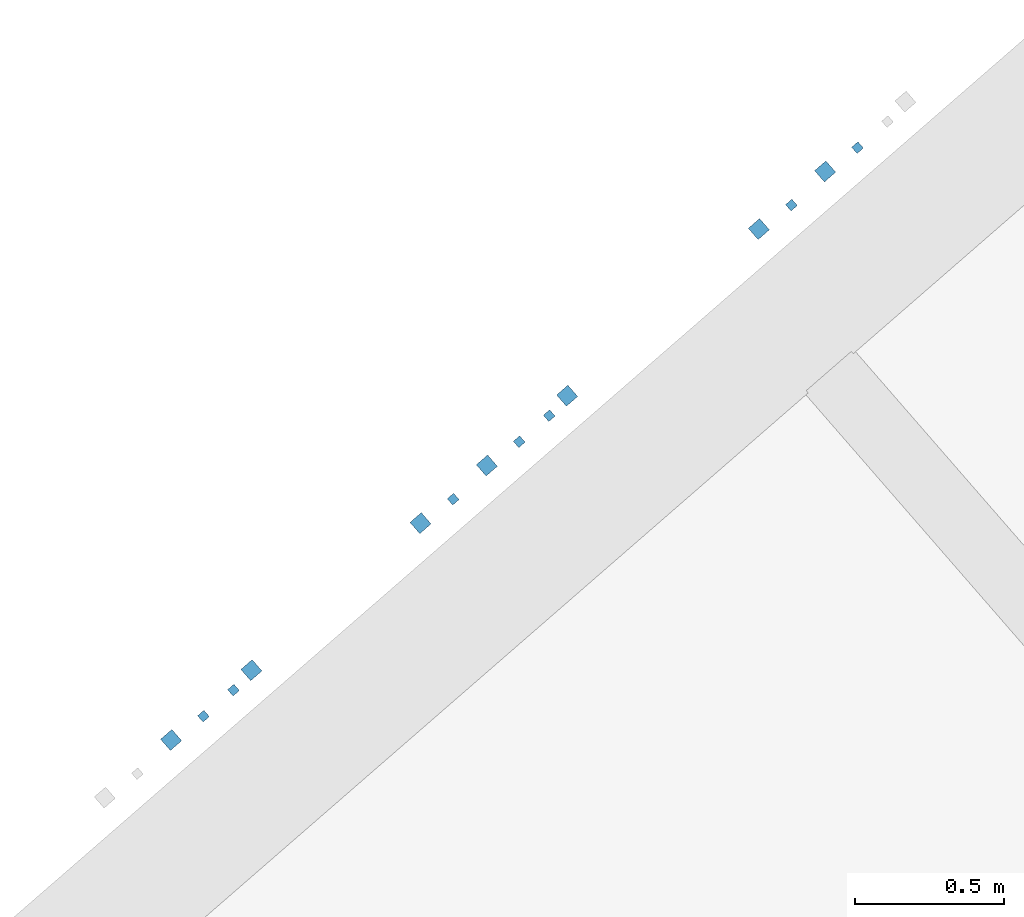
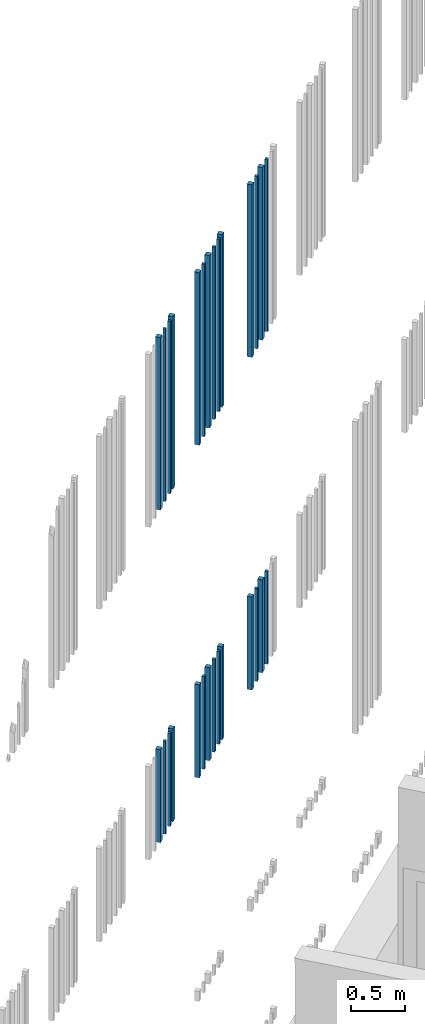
# One storey, part 53 of 124: 28 walls.
"""IFC2X3 building model written with IfcOpenShell, lengths in millimetres."""

import ifcopenshell
import ifcopenshell.guid

model = None  # the IFC model being written
_history = None  # IfcOwnerHistory: only IFC2X3 demands one
_inside = {}  # id of a spatial element -> (the spatial element, [elements in it])
_under = {}  # id of a project, library or spatial element -> (it, [spatial elements below it])
_declared = {}  # id of a project -> (the project, [libraries it declares])
_typed = {}  # id of a type object -> (the type object, [elements of that type])
_made_of = {}  # id of a material, layer set ... -> (it, [elements and type objects made of it])


def new_model(schema):
    """Start an empty IFC model of exactly this schema.

    Asked for "IFC4X3", IfcOpenShell would pick the latest addendum, in which some entities
    have other attributes; the version numbers below select the first issue.
    IFC2X3 requires an IfcOwnerHistory on every rooted entity: one is made here for all.
    """
    global model, _history
    if schema == "IFC4X3":
        model = ifcopenshell.file(schema_version=(4, 3, 0, 0))
    else:
        model = ifcopenshell.file(schema=schema)
    _inside.clear()
    _under.clear()
    _declared.clear()
    _typed.clear()
    _made_of.clear()
    _history = None
    if model.schema == "IFC2X3":
        org = make("IfcOrganization", Name="unknown")
        user = make(
            "IfcPersonAndOrganization",
            ThePerson=make("IfcPerson", FamilyName="unknown"),
            TheOrganization=org,
        )
        app = make(
            "IfcApplication",
            ApplicationDeveloper=org,
            Version="unknown",
            ApplicationFullName="unknown",
            ApplicationIdentifier="unknown",
        )
        _history = make(
            "IfcOwnerHistory",
            OwningUser=user,
            OwningApplication=app,
            ChangeAction="ADDED",
            CreationDate=0,
        )
    return model


def make(cls, **values):
    """One entity of the class cls with the attributes given. An attribute that is None is left unset."""
    return model.create_entity(
        cls, **{name: value for name, value in values.items() if value is not None}
    )


def entity(cls, *values):
    """Any entity or typed value of the class cls, its attributes in the order of the schema. None: left unset."""
    e = model.create_entity(cls)
    for i, value in enumerate(values):
        if value is not None:
            e[i] = value
    return e


def rooted(cls, **values):
    """An entity with a GlobalId (a new one), such as an element, a storey or a relation."""
    return make(cls, GlobalId=ifcopenshell.guid.new(), OwnerHistory=_history, **values)


def si_unit(unit_type, name, prefix=None):
    """IfcSIUnit, for example si_unit("LENGTHUNIT", "METRE", prefix="MILLI")."""
    return make("IfcSIUnit", UnitType=unit_type, Prefix=prefix, Name=name)


def converted_unit(unit_type, name, factor, base, dimensions=None, offset=None):
    """IfcConversionBasedUnit, such as the inch: factor (a typed value) times the base unit."""
    return make(
        "IfcConversionBasedUnit"
        if offset is None
        else "IfcConversionBasedUnitWithOffset",
        ConversionOffset=offset,
        Dimensions=None
        if dimensions is None
        else entity("IfcDimensionalExponents", *dimensions),
        UnitType=unit_type,
        Name=name,
        ConversionFactor=make(
            "IfcMeasureWithUnit", ValueComponent=factor, UnitComponent=base
        ),
    )


def derived_unit(unit_type, elements):
    """IfcDerivedUnit: a product of units, each with its exponent."""
    return make(
        "IfcDerivedUnit",
        Elements=[
            make("IfcDerivedUnitElement", Unit=unit, Exponent=power)
            for unit, power in elements
        ],
        UnitType=unit_type,
    )


def money_unit(currency):
    """IfcMonetaryUnit."""
    return make("IfcMonetaryUnit", Currency=currency)


def assignment(units):
    """IfcUnitAssignment: the units of a project."""
    return None if units is None else make("IfcUnitAssignment", Units=units)


def point(xyz):
    """IfcCartesianPoint."""
    return None if xyz is None else make("IfcCartesianPoint", Coordinates=xyz)


def direction(xyz):
    """IfcDirection."""
    return None if xyz is None else make("IfcDirection", DirectionRatios=xyz)


def frame(location, z_axis=None, x_axis=None):
    """IfcAxis2Placement3D, a coordinate frame: its origin and axes. An axis left out is left unset."""
    return make(
        "IfcAxis2Placement3D",
        Location=point(location),
        Axis=direction(z_axis),
        RefDirection=direction(x_axis),
    )


def origin_with_axes():
    """The frame at (0, 0, 0) with the z axis (0, 0, 1) and the x axis (1, 0, 0) written out."""
    return frame((0.0, 0.0, 0.0), z_axis=(0.0, 0.0, 1.0), x_axis=(1.0, 0.0, 0.0))


def place(relative_to, where):
    """IfcLocalPlacement: puts the frame where relative to a parent placement (None: the world)."""
    return make(
        "IfcLocalPlacement", PlacementRelTo=relative_to, RelativePlacement=where
    )


def context(
    kind, dimensions, precision=None, world=None, true_north=None, identifier=None
):
    """IfcGeometricRepresentationContext, for example the 3D "Model" context."""
    return make(
        "IfcGeometricRepresentationContext",
        ContextIdentifier=identifier,
        ContextType=kind,
        CoordinateSpaceDimension=dimensions,
        Precision=precision,
        WorldCoordinateSystem=world,
        TrueNorth=true_north,
    )


def subcontext(parent, identifier, kind, view, scale=None):
    """IfcGeometricRepresentationSubContext, for example "Body" below "Model"."""
    return make(
        "IfcGeometricRepresentationSubContext",
        ContextIdentifier=identifier,
        ContextType=kind,
        ParentContext=parent,
        TargetScale=scale,
        TargetView=view,
    )


def project(units=None, contexts=None):
    """IfcProject with its units and contexts."""
    return rooted(
        "IfcProject",
        Name="project",
        RepresentationContexts=contexts,
        UnitsInContext=assignment(units),
    )


def spatial(cls, under=None, at=None, **own):
    """A site, building, storey or space (cls), placed at a placement, below another one or the project."""
    s = rooted(cls, ObjectPlacement=at, **own)
    if under is not None:
        _under.setdefault(under.id(), (under, []))[1].append(s)
    return s


def faces_of(points, faces, orient=None, outer=None):
    """IfcFace entities. A face is a list of loops; a loop is a list of indices into points, from 0.

    orient and outer hold one flag for each loop. By default every Orientation is true, the
    first loop of a face is its IfcFaceOuterBound and the others are IfcFaceBound.
    """
    made = []
    for i, loops in enumerate(faces):
        bounds = []
        for j, loop in enumerate(loops):
            is_outer = j == 0 if outer is None else outer[i][j]
            bounds.append(
                make(
                    "IfcFaceOuterBound" if is_outer else "IfcFaceBound",
                    Bound=make("IfcPolyLoop", Polygon=[points[k] for k in loop]),
                    Orientation=True if orient is None else orient[i][j],
                )
            )
        made.append(make("IfcFace", Bounds=bounds))
    return made


def faceted_brep(points, faces, orient=None, outer=None, voids=None):
    """IfcFacetedBrep: a solid bounded by flat faces; with voids (closed shells), ...WithVoids."""
    shared = [point(p) for p in points]
    hull = make("IfcClosedShell", CfsFaces=faces_of(shared, faces, orient, outer))
    if voids is None:
        return make("IfcFacetedBrep", Outer=hull)
    return make(
        "IfcFacetedBrepWithVoids",
        Outer=hull,
        Voids=[
            make(cls, CfsFaces=faces_of(shared, fs, o, b)) for cls, fs, o, b in voids
        ],
    )


def shape(context_of_items, identifier, shape_type, items):
    """IfcShapeRepresentation: the items that make up one representation, for example the "Body"."""
    return make(
        "IfcShapeRepresentation",
        ContextOfItems=context_of_items,
        RepresentationIdentifier=identifier,
        RepresentationType=shape_type,
        Items=items,
    )


def material(Name=None, Category=None):
    """IfcMaterial."""
    return make("IfcMaterial", Name=Name, Category=Category)


def made_of(thing, what):
    """Note that an element or type object is made of a material, layer set ...; save() writes the relation."""
    if what is not None:
        _made_of.setdefault(what.id(), (what, []))[1].append(thing)
    return thing


def type_object(cls, material=None, **own):
    """A type object (cls), such as IfcWallType, which elements share."""
    return made_of(rooted(cls, **own), material)


def element(
    cls,
    number,
    at=None,
    inside=None,
    cuts=None,
    type_object=None,
    material=None,
    context=None,
    identifier="Body",
    shape_type=None,
    held_by="IfcProductDefinitionShape",
    body=None,
    shapes=None,
    **own,
):
    """One element of the class cls, such as IfcWall. Its Tag is "e" and its number.

    at: its placement. inside: the storey or other place that contains it. cuts: it is an
    opening in that element (IfcRelVoidsElement). A single representation is given by context,
    identifier, shape_type and body (its items); several are given by shapes. held_by: the class
    of the entity that holds the representations. save() writes the other relations.
    """
    e = rooted(cls, Tag="e%d" % number, ObjectPlacement=at, **own)
    if body is not None:
        shapes = [shape(context, identifier, shape_type, body)]
    if shapes is not None:
        e.Representation = make(held_by, Representations=shapes)
    if inside is not None:
        _inside.setdefault(inside.id(), (inside, []))[1].append(e)
    if cuts is not None:
        rooted(
            "IfcRelVoidsElement", RelatingBuildingElement=cuts, RelatedOpeningElement=e
        )
    if type_object is not None:
        _typed.setdefault(type_object.id(), (type_object, []))[1].append(e)
    return made_of(e, material)


def aggregate(whole, parts):
    """IfcRelAggregates: a whole, such as a stair, and the parts it consists of."""
    return rooted("IfcRelAggregates", RelatingObject=whole, RelatedObjects=parts)


def save(model, path):
    """Write the relations noted so far, then the file.

    IfcRelAggregates (storeys below a building ...), IfcRelContainedInSpatialStructure (elements
    in a storey), IfcRelDefinesByType, IfcRelAssociatesMaterial and IfcRelDeclares: one each for
    every whole, place, type object, material and project.
    """
    for whole, parts in _under.values():
        aggregate(whole, parts)
    for where, things in _inside.values():
        rooted(
            "IfcRelContainedInSpatialStructure",
            RelatedElements=things,
            RelatingStructure=where,
        )
    for kind, things in _typed.values():
        rooted("IfcRelDefinesByType", RelatedObjects=things, RelatingType=kind)
    for what, things in _made_of.values():
        rooted("IfcRelAssociatesMaterial", RelatedObjects=things, RelatingMaterial=what)
    for by, libraries in _declared.values():
        rooted("IfcRelDeclares", RelatingContext=by, RelatedDefinitions=libraries)
    model.write(path)


model = new_model("IFC2X3")

# Units and contexts
model_context = context("Model", 3, precision=1e-05, world=origin_with_axes(), true_north=direction((0.0, 1.0)))
body_context = subcontext(model_context, "Body", "Model", "MODEL_VIEW")
ifc_project = project(units=[si_unit("LENGTHUNIT", "METRE", prefix="MILLI"), si_unit("AREAUNIT", "SQUARE_METRE"), si_unit("VOLUMEUNIT", "CUBIC_METRE"), converted_unit("PLANEANGLEUNIT", "DEGREE", entity("IfcPlaneAngleMeasure", 0.0174532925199), si_unit("PLANEANGLEUNIT", "RADIAN"), dimensions=[0, 0, 0, 0, 0, 0, 0]), si_unit("SOLIDANGLEUNIT", "STERADIAN"), money_unit("EUR"), converted_unit("TIMEUNIT", "Year", entity("IfcTimeMeasure", 31556926.0), si_unit("TIMEUNIT", "SECOND"), dimensions=[0, 0, 1, 0, 0, 0, 0]), si_unit("MASSUNIT", "GRAM", prefix="KILO"), si_unit("THERMODYNAMICTEMPERATUREUNIT", "DEGREE_CELSIUS"), si_unit("LUMINOUSINTENSITYUNIT", "LUMEN"), si_unit("ENERGYUNIT", "JOULE", prefix="MEGA"), derived_unit("THERMALCONDUCTANCEUNIT", [(si_unit("POWERUNIT", "WATT"), 1), (si_unit("LENGTHUNIT", "METRE"), -1), (si_unit("THERMODYNAMICTEMPERATUREUNIT", "KELVIN"), -1)]), derived_unit("SPECIFICHEATCAPACITYUNIT", [(si_unit("ENERGYUNIT", "JOULE"), 1), (si_unit("MASSUNIT", "GRAM", prefix="KILO"), -1), (si_unit("THERMODYNAMICTEMPERATUREUNIT", "KELVIN"), -1)]), derived_unit("MASSDENSITYUNIT", [(si_unit("MASSUNIT", "GRAM", prefix="KILO"), 1), (si_unit("VOLUMEUNIT", "CUBIC_METRE"), -1)])], contexts=[model_context])

# Site, building, storey
site_placement = place(None, origin_with_axes())
site = spatial("IfcSite", under=ifc_project, at=site_placement, Name="Site", CompositionType="ELEMENT")
building_placement = place(site_placement, origin_with_axes())
building = spatial("IfcBuilding", under=site, at=building_placement, Name="Building", CompositionType="ELEMENT")
storey_placement = place(building_placement, frame((0.0, 0.0, -1615.0), z_axis=(0.0, 0.0, 1.0), x_axis=(1.0, 0.0, 0.0)))
storey = spatial("IfcBuildingStorey", under=building, at=storey_placement, Name="0  korrus", CompositionType="ELEMENT", Elevation=-1615.0)

# Walls
ifc_material = material(Name="Site specified")
wall_type = type_object("IfcWallType", Name="Puitfassaadi ribistik", PredefinedType="NOTDEFINED")
for number, where, z_axis, x_axis, name in (
    (1, (148220.96178, 98868.3569875, 5771.0), (0.0, 0.0, 1.0), (0.754709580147, 0.656059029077, 0.0), "Site specified"),
    (2, (148120.585406, 98781.1011372, 5771.0), (0.0, 0.0, 1.0), (0.754709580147, 0.656059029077, 0.0), "Site specified"),
):
    element("IfcWall", number, at=place(storey_placement, frame(where, z_axis=z_axis, x_axis=x_axis)), inside=storey, type_object=wall_type, material=ifc_material, Name=name, context=body_context, shape_type="Brep", body=[
        faceted_brep([(14.0, 14.0, 1050.0), (14.0, 14.0, 0.0), (-14.0, 14.0, 0.0), (-14.0, 14.0, 1050.0), (14.0, -14.0, 1050.0), (14.0, -14.0, 0.0), (-14.0, -14.0, 0.0), (-14.0, -14.0, 1050.0)], [[[0, 1, 2, 3]], [[4, 5, 1, 0]], [[2, 1, 5, 6]], [[3, 2, 6, 7]], [[4, 0, 3, 7]], [[7, 6, 5, 4]]]),
    ])
for number, where, z_axis, x_axis, name in (
    (3, (148280.916676, 98935.0501264, 5771.0), (0.0, 0.0, 1.0), (0.754709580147, 0.656059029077, 0.0), "Site specified"),
    (4, (148012.235814, 98701.4894163, 5771.0), (0.0, 0.0, 1.0), (0.754709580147, 0.656059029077, 0.0), "Site specified"),
):
    element("IfcWall", number, at=place(storey_placement, frame(where, z_axis=z_axis, x_axis=x_axis)), inside=storey, type_object=wall_type, material=ifc_material, Name=name, context=body_context, shape_type="Brep", body=[
        faceted_brep([(25.0, 25.0, 1050.0), (25.0, 25.0, 0.0), (-25.0, 25.0, 0.0), (-25.0, 25.0, 1050.0), (25.0, -25.0, 1050.0), (25.0, -25.0, 0.0), (-25.0, -25.0, 0.0), (-25.0, -25.0, 1050.0)], [[[0, 1, 2, 3]], [[4, 5, 1, 0]], [[2, 1, 5, 6]], [[3, 2, 6, 7]], [[4, 0, 3, 7]], [[7, 6, 5, 4]]]),
    ])
for number, where, z_axis, x_axis, name in (
    (5, (148220.96178, 98868.3569875, 9530.0), (0.0, 0.0, 1.0), (0.754709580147, 0.656059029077, 0.0), "Site specified"),
    (6, (148120.585406, 98781.1011372, 9530.0), (0.0, 0.0, 1.0), (0.754709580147, 0.656059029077, 0.0), "Site specified"),
):
    element("IfcWall", number, at=place(storey_placement, frame(where, z_axis=z_axis, x_axis=x_axis)), inside=storey, type_object=wall_type, material=ifc_material, Name=name, context=body_context, shape_type="Brep", body=[
        faceted_brep([(14.0, 14.0, 1950.0), (14.0, 14.0, 0.0), (-14.0, 14.0, 0.0), (-14.0, 14.0, 1950.0), (14.0, -14.0, 1950.0), (14.0, -14.0, 0.0), (-14.0, -14.0, 0.0), (-14.0, -14.0, 1950.0)], [[[0, 1, 2, 3]], [[4, 5, 1, 0]], [[2, 1, 5, 6]], [[3, 2, 6, 7]], [[4, 0, 3, 7]], [[7, 6, 5, 4]]]),
    ])
for number, where, z_axis, x_axis, name in (
    (7, (148280.916676, 98935.0501264, 9530.0), (0.0, 0.0, 1.0), (0.754709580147, 0.656059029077, 0.0), "Site specified"),
    (8, (148012.235814, 98701.4894163, 9530.0), (0.0, 0.0, 1.0), (0.754709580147, 0.656059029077, 0.0), "Site specified"),
):
    element("IfcWall", number, at=place(storey_placement, frame(where, z_axis=z_axis, x_axis=x_axis)), inside=storey, type_object=wall_type, material=ifc_material, Name=name, context=body_context, shape_type="Brep", body=[
        faceted_brep([(25.0, 25.0, 1950.0), (25.0, 25.0, 0.0), (-25.0, 25.0, 0.0), (-25.0, 25.0, 1950.0), (25.0, -25.0, 1950.0), (25.0, -25.0, 0.0), (-25.0, -25.0, 0.0), (-25.0, -25.0, 1950.0)], [[[0, 1, 2, 3]], [[4, 5, 1, 0]], [[2, 1, 5, 6]], [[3, 2, 6, 7]], [[4, 0, 3, 7]], [[7, 6, 5, 4]]]),
    ])
wall_1_placement = place(storey_placement, frame((149177.178922, 99699.5838678, 5771.0), z_axis=(0.0, 0.0, 1.0), x_axis=(0.754709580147, 0.656059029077, 0.0)))
element("IfcWall", 9, at=wall_1_placement, inside=storey, type_object=wall_type, material=ifc_material, Name="Site specified", context=body_context, shape_type="Brep", body=[
    faceted_brep([(14.0, 14.0, 1050.0), (14.0, 14.0, 0.0), (-14.0, 14.0, 0.0), (-14.0, 14.0, 1050.0), (14.0, -14.0, 1050.0), (14.0, -14.0, 0.0), (-14.0, -14.0, 0.0), (-14.0, -14.0, 1050.0)], [[[0, 1, 2, 3]], [[4, 5, 1, 0]], [[2, 1, 5, 6]], [[3, 2, 6, 7]], [[4, 0, 3, 7]], [[7, 6, 5, 4]]]),
])
for number, where, z_axis, x_axis, name in (
    (10, (149337.510192, 99853.5328571, 5771.0), (0.0, 0.0, 1.0), (0.754709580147, 0.656059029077, 0.0), "Site specified"),
    (11, (149068.82933, 99619.9721469, 5771.0), (0.0, 0.0, 1.0), (0.754709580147, 0.656059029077, 0.0), "Site specified"),
):
    element("IfcWall", number, at=place(storey_placement, frame(where, z_axis=z_axis, x_axis=x_axis)), inside=storey, type_object=wall_type, material=ifc_material, Name=name, context=body_context, shape_type="Brep", body=[
        faceted_brep([(25.0, 25.0, 1050.0), (25.0, 25.0, 0.0), (-25.0, 25.0, 0.0), (-25.0, 25.0, 1050.0), (25.0, -25.0, 1050.0), (25.0, -25.0, 0.0), (-25.0, -25.0, 0.0), (-25.0, -25.0, 1050.0)], [[[0, 1, 2, 3]], [[4, 5, 1, 0]], [[2, 1, 5, 6]], [[3, 2, 6, 7]], [[4, 0, 3, 7]], [[7, 6, 5, 4]]]),
    ])
for number, where, z_axis, x_axis, name in (
    (12, (148956.049037, 99507.3585913, 9530.0), (0.0, 0.0, 1.0), (0.754709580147, 0.656059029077, 0.0), "Site specified"),
    (13, (149277.555296, 99786.8397181, 9530.0), (0.0, 0.0, 1.0), (0.754709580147, 0.656059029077, 0.0), "Site specified"),
    (14, (149177.178922, 99699.5838678, 9530.0), (0.0, 0.0, 1.0), (0.754709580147, 0.656059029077, 0.0), "Site specified"),
):
    element("IfcWall", number, at=place(storey_placement, frame(where, z_axis=z_axis, x_axis=x_axis)), inside=storey, type_object=wall_type, material=ifc_material, Name=name, context=body_context, shape_type="Brep", body=[
        faceted_brep([(14.0, 14.0, 1950.0), (14.0, 14.0, 0.0), (-14.0, 14.0, 0.0), (-14.0, 14.0, 1950.0), (14.0, -14.0, 1950.0), (14.0, -14.0, 0.0), (-14.0, -14.0, 0.0), (-14.0, -14.0, 1950.0)], [[[0, 1, 2, 3]], [[4, 5, 1, 0]], [[2, 1, 5, 6]], [[3, 2, 6, 7]], [[4, 0, 3, 7]], [[7, 6, 5, 4]]]),
    ])
for number, where, z_axis, x_axis, name in (
    (15, (149337.510192, 99853.5328571, 9530.0), (0.0, 0.0, 1.0), (0.754709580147, 0.656059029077, 0.0), "Site specified"),
    (16, (149068.82933, 99619.9721469, 9530.0), (0.0, 0.0, 1.0), (0.754709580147, 0.656059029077, 0.0), "Site specified"),
):
    element("IfcWall", number, at=place(storey_placement, frame(where, z_axis=z_axis, x_axis=x_axis)), inside=storey, type_object=wall_type, material=ifc_material, Name=name, context=body_context, shape_type="Brep", body=[
        faceted_brep([(25.0, 25.0, 1950.0), (25.0, 25.0, 0.0), (-25.0, 25.0, 0.0), (-25.0, 25.0, 1950.0), (25.0, -25.0, 1950.0), (25.0, -25.0, 0.0), (-25.0, -25.0, 0.0), (-25.0, -25.0, 1950.0)], [[[0, 1, 2, 3]], [[4, 5, 1, 0]], [[2, 1, 5, 6]], [[3, 2, 6, 7]], [[4, 0, 3, 7]], [[7, 6, 5, 4]]]),
    ])
for number, where, z_axis, x_axis, name in (
    (17, (149277.555296, 99786.8397181, 5771.0), (0.0, 0.0, 1.0), (0.754709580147, 0.656059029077, 0.0), "Site specified"),
    (18, (148956.049037, 99507.3585913, 5771.0), (0.0, 0.0, 1.0), (0.754709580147, 0.656059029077, 0.0), "Site specified"),
):
    element("IfcWall", number, at=place(storey_placement, frame(where, z_axis=z_axis, x_axis=x_axis)), inside=storey, type_object=wall_type, material=ifc_material, Name=name, context=body_context, shape_type="Brep", body=[
        faceted_brep([(14.0, 14.0, 1050.0), (14.0, 14.0, 0.0), (-14.0, 14.0, 0.0), (-14.0, 14.0, 1050.0), (14.0, -14.0, 1050.0), (14.0, -14.0, 0.0), (-14.0, -14.0, 0.0), (-14.0, -14.0, 1050.0)], [[[0, 1, 2, 3]], [[4, 5, 1, 0]], [[2, 1, 5, 6]], [[3, 2, 6, 7]], [[4, 0, 3, 7]], [[7, 6, 5, 4]]]),
    ])
wall_2_placement = place(storey_placement, frame((148846.944715, 99427.0907938, 5771.0), z_axis=(0.0, 0.0, 1.0), x_axis=(0.754709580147, 0.656059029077, 0.0)))
element("IfcWall", 19, at=wall_2_placement, inside=storey, type_object=wall_type, material=ifc_material, Name="Site specified", context=body_context, shape_type="Brep", body=[
    faceted_brep([(25.0, 25.0, 1050.0), (25.0, 25.0, 0.0), (-25.0, 25.0, 0.0), (-25.0, 25.0, 1050.0), (25.0, -25.0, 1050.0), (25.0, -25.0, 0.0), (-25.0, -25.0, 0.0), (-25.0, -25.0, 1050.0)], [[[0, 1, 2, 3]], [[4, 5, 1, 0]], [[2, 1, 5, 6]], [[3, 2, 6, 7]], [[4, 0, 3, 7]], [[7, 6, 5, 4]]]),
])
for number, where, z_axis, x_axis, name in (
    (20, (148846.944715, 99427.0907938, 9530.0), (0.0, 0.0, 1.0), (0.754709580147, 0.656059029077, 0.0), "Site specified"),
    (21, (150200.8937, 100604.060691, 9530.0), (0.0, 0.0, 1.0), (0.754709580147, 0.656059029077, 0.0), "Site specified"),
):
    element("IfcWall", number, at=place(storey_placement, frame(where, z_axis=z_axis, x_axis=x_axis)), inside=storey, type_object=wall_type, material=ifc_material, Name=name, context=body_context, shape_type="Brep", body=[
        faceted_brep([(25.0, 25.0, 1950.0), (25.0, 25.0, 0.0), (-25.0, 25.0, 0.0), (-25.0, 25.0, 1950.0), (25.0, -25.0, 1950.0), (25.0, -25.0, 0.0), (-25.0, -25.0, 0.0), (-25.0, -25.0, 1950.0)], [[[0, 1, 2, 3]], [[4, 5, 1, 0]], [[2, 1, 5, 6]], [[3, 2, 6, 7]], [[4, 0, 3, 7]], [[7, 6, 5, 4]]]),
    ])
for number, where, z_axis, x_axis, name in (
    (22, (150309.243292, 100683.672412, 9530.0), (0.0, 0.0, 1.0), (0.754709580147, 0.656059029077, 0.0), "Site specified"),
    (23, (150088.113407, 100491.447135, 9530.0), (0.0, 0.0, 1.0), (0.754709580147, 0.656059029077, 0.0), "Site specified"),
):
    element("IfcWall", number, at=place(storey_placement, frame(where, z_axis=z_axis, x_axis=x_axis)), inside=storey, type_object=wall_type, material=ifc_material, Name=name, context=body_context, shape_type="Brep", body=[
        faceted_brep([(14.0, 14.0, 1950.0), (14.0, 14.0, 0.0), (-14.0, 14.0, 0.0), (-14.0, 14.0, 1950.0), (14.0, -14.0, 1950.0), (14.0, -14.0, 0.0), (-14.0, -14.0, 0.0), (-14.0, -14.0, 1950.0)], [[[0, 1, 2, 3]], [[4, 5, 1, 0]], [[2, 1, 5, 6]], [[3, 2, 6, 7]], [[4, 0, 3, 7]], [[7, 6, 5, 4]]]),
    ])
wall_3_placement = place(storey_placement, frame((149979.009085, 100411.179338, 9530.0), z_axis=(0.0, 0.0, 1.0), x_axis=(0.754709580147, 0.656059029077, 0.0)))
element("IfcWall", 24, at=wall_3_placement, inside=storey, type_object=wall_type, material=ifc_material, Name="Site specified", context=body_context, shape_type="Brep", body=[
    faceted_brep([(25.0, 25.0, 1950.0), (25.0, 25.0, 0.0), (-25.0, 25.0, 0.0), (-25.0, 25.0, 1950.0), (25.0, -25.0, 1950.0), (25.0, -25.0, 0.0), (-25.0, -25.0, 0.0), (-25.0, -25.0, 1950.0)], [[[0, 1, 2, 3]], [[4, 5, 1, 0]], [[2, 1, 5, 6]], [[3, 2, 6, 7]], [[4, 0, 3, 7]], [[7, 6, 5, 4]]]),
])
wall_4_placement = place(storey_placement, frame((150200.8937, 100604.060691, 5771.0), z_axis=(0.0, 0.0, 1.0), x_axis=(0.754709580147, 0.656059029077, 0.0)))
element("IfcWall", 25, at=wall_4_placement, inside=storey, type_object=wall_type, material=ifc_material, Name="Site specified", context=body_context, shape_type="Brep", body=[
    faceted_brep([(25.0, 25.0, 1050.0), (25.0, 25.0, 0.0), (-25.0, 25.0, 0.0), (-25.0, 25.0, 1050.0), (25.0, -25.0, 1050.0), (25.0, -25.0, 0.0), (-25.0, -25.0, 0.0), (-25.0, -25.0, 1050.0)], [[[0, 1, 2, 3]], [[4, 5, 1, 0]], [[2, 1, 5, 6]], [[3, 2, 6, 7]], [[4, 0, 3, 7]], [[7, 6, 5, 4]]]),
])
for number, where, z_axis, x_axis, name in (
    (26, (150309.243292, 100683.672412, 5771.0), (0.0, 0.0, 1.0), (0.754709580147, 0.656059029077, 0.0), "Site specified"),
    (27, (150088.113407, 100491.447135, 5771.0), (0.0, 0.0, 1.0), (0.754709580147, 0.656059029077, 0.0), "Site specified"),
):
    element("IfcWall", number, at=place(storey_placement, frame(where, z_axis=z_axis, x_axis=x_axis)), inside=storey, type_object=wall_type, material=ifc_material, Name=name, context=body_context, shape_type="Brep", body=[
        faceted_brep([(14.0, 14.0, 1050.0), (14.0, 14.0, 0.0), (-14.0, 14.0, 0.0), (-14.0, 14.0, 1050.0), (14.0, -14.0, 1050.0), (14.0, -14.0, 0.0), (-14.0, -14.0, 0.0), (-14.0, -14.0, 1050.0)], [[[0, 1, 2, 3]], [[4, 5, 1, 0]], [[2, 1, 5, 6]], [[3, 2, 6, 7]], [[4, 0, 3, 7]], [[7, 6, 5, 4]]]),
    ])
wall_5_placement = place(storey_placement, frame((149979.009085, 100411.179338, 5771.0), z_axis=(0.0, 0.0, 1.0), x_axis=(0.754709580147, 0.656059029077, 0.0)))
element("IfcWall", 28, at=wall_5_placement, inside=storey, type_object=wall_type, material=ifc_material, Name="Site specified", context=body_context, shape_type="Brep", body=[
    faceted_brep([(25.0, 25.0, 1050.0), (25.0, 25.0, 0.0), (-25.0, 25.0, 0.0), (-25.0, 25.0, 1050.0), (25.0, -25.0, 1050.0), (25.0, -25.0, 0.0), (-25.0, -25.0, 0.0), (-25.0, -25.0, 1050.0)], [[[0, 1, 2, 3]], [[4, 5, 1, 0]], [[2, 1, 5, 6]], [[3, 2, 6, 7]], [[4, 0, 3, 7]], [[7, 6, 5, 4]]]),
])

save(model, "model.ifc")
